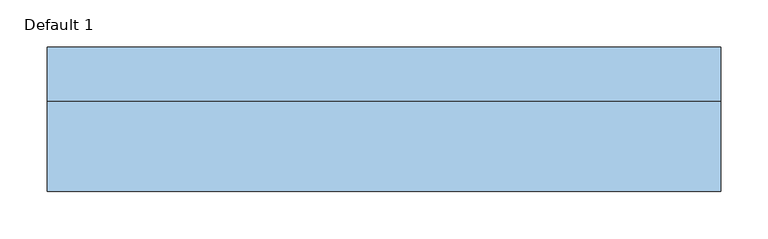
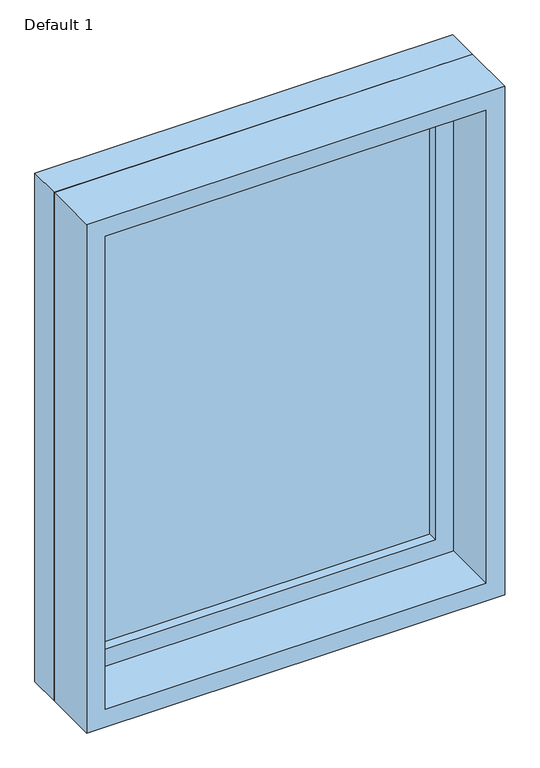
"""IFC4 building model written with IfcOpenShell, lengths in millimetres: window geometry, Planitar-Fixed : Default 1."""

from ifc_helpers import new_model, si_unit, frame, origin, place, context, project, spatial, polyline, outline, extrude, source, transform, mapped, element, save


def default_1_b708f4cf(model_context):
    return source(origin(), model_context, "Body", "SweptSolid", [
        extrude(outline(polyline([(1809.8, -336.6), (933.4, -336.6), (933.4, 336.6), (1809.8, 336.6), (1809.8, -336.6)]), holes=[polyline([(1765.8, -292.6), (1765.8, 292.6), (977.4, 292.6), (977.4, -292.6), (1765.8, -292.6)])]), frame((0.0, 32.5, 0.0), z_axis=(0.0, 1.0, 0.0), x_axis=(0.0, 0.0, 1.0)), (0.0, 0.0, 1.0), 44.0),
        extrude(outline(polyline([(1828.8, -355.6), (914.4, -355.6), (914.4, 355.6), (1828.8, 355.6), (1828.8, -355.6)]), holes=[polyline([(1809.8, -336.6), (1809.8, 336.6), (933.4, 336.6), (933.4, -336.6), (1809.8, -336.6)])]), frame((0.0, 32.5, 0.0), z_axis=(0.0, 1.0, 0.0), x_axis=(0.0, 0.0, 1.0)), (0.0, 0.0, 1.0), 56.7),
        extrude(outline(polyline([(1828.8, -355.6), (914.4, -355.6), (914.4, 355.6), (1828.8, 355.6), (1828.8, -355.6)]), holes=[polyline([(1796.8, -323.6), (1796.8, 323.6), (946.4, 323.6), (946.4, -323.6), (1796.8, -323.6)])]), frame((0.0, -63.2, 0.0), z_axis=(0.0, 1.0, 0.0), x_axis=(0.0, 0.0, 1.0)), (0.0, 0.0, 1.0), 95.7),
        extrude(outline(polyline([(-292.6, 60.5), (292.6, 60.5), (292.6, 48.5), (-292.6, 48.5), (-292.6, 60.5)])), frame((0.0, 0.0, 977.4), z_axis=(0.0, 0.0, 1.0), x_axis=(1.0, 0.0, 0.0)), (0.0, 0.0, 1.0), 788.4),
    ])


if __name__ == "__main__":
    model = new_model("IFC4")
    model_context = context("Model", 3, world=origin())
    ifc_project = project(units=[si_unit("LENGTHUNIT", "METRE", prefix="MILLI")], contexts=[model_context])
    site = spatial("IfcSite", under=ifc_project)
    building = spatial("IfcBuilding", under=site)
    placement = place(None, origin())
    default_1_shape = default_1_b708f4cf(model_context)
    element("IfcWindow", 1, ObjectType="Planitar-Fixed : Default 1", at=placement, inside=building, context=model_context, shape_type="MappedRepresentation", body=[
        mapped(default_1_shape, transform((0.0, 0.0, 0.0), x_axis=(1.0, 0.0, 0.0), y_axis=(0.0, 1.0, 0.0), z_axis=(0.0, 0.0, 1.0))),
    ])
    save(model, "model.ifc")
